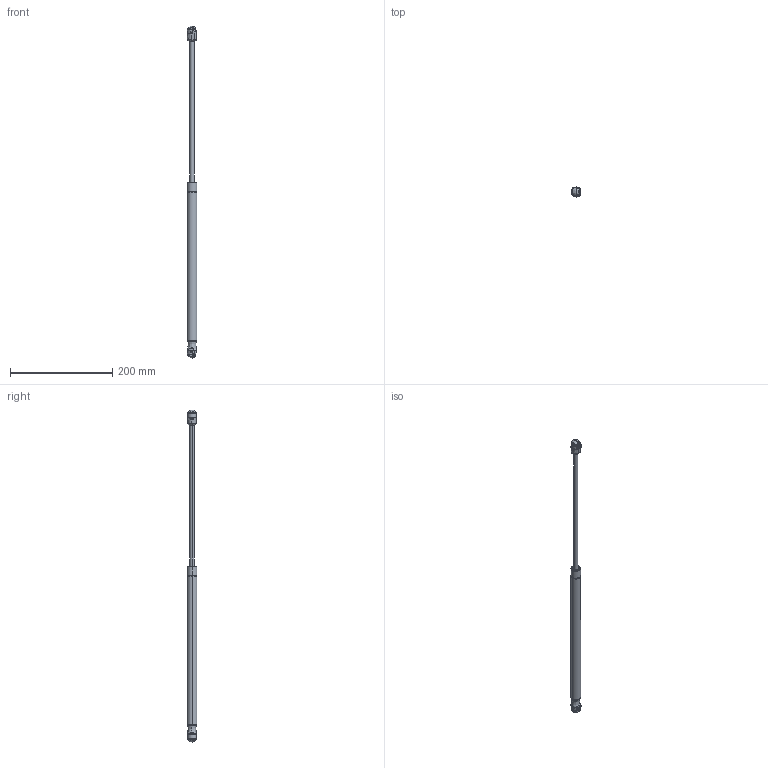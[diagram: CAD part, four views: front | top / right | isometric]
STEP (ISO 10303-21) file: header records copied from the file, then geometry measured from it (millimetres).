
FILE_DESCRIPTION (( 'STEP AP214' ), '1' );
FILE_NAME ('GS08-1025PE10.STEP', '2011-03-30T19:31:24', ( 'user' ), ( '' ), 'SwSTEP 2.0', 'SolidWorks 2011', '' );
FILE_SCHEMA (( 'AUTOMOTIVE_DESIGN' ));
Length unit declared in the file: millimetre
Products named in the file (10): 4098DY_B-SOCKETa; 4098DY_B-SOCKET1-4; 4098DY_B-SOCKET2-4; GS08-1025PE10-NC; GS08-1025PE10-SHAFT; GS08-1025PE10-TUBE; 7175NH_B-SOCKET_FLARED1; 7175NH_B-SOCKET_FLARED2-2; 7175NH_B-SOCKET_FLARED1-2; GS08-1025PE10
Assembly tree (9 placements, depth 3):
  GS08-1025PE10
    4098DY_B-SOCKETa
      4098DY_B-SOCKET2-4
      4098DY_B-SOCKET1-4
    7175NH_B-SOCKET_FLARED1
      7175NH_B-SOCKET_FLARED2-2
      7175NH_B-SOCKET_FLARED1-2
    GS08-1025PE10-NC
      GS08-1025PE10-SHAFT
      GS08-1025PE10-TUBE
Bounding box: 19.04 x 19 x 650 mm (x, y, z)
Volume: 98153.1 mm3; surface area: 40173.1 mm2
Topology: 6 solids, 6 shells, 403 faces, 1085 edges, 683 vertices
Faces by surface type: bspline 140, plane 119, cylinder 118, cone 18, torus 8
Entity records: 18249 total; most frequent: CARTESIAN_POINT 7604, ORIENTED_EDGE 2152, DIRECTION 1574, EDGE_CURVE 1076, VERTEX_POINT 682, AXIS2_PLACEMENT_3D 596, EDGE_LOOP 408, FACE_OUTER_BOUND 403
